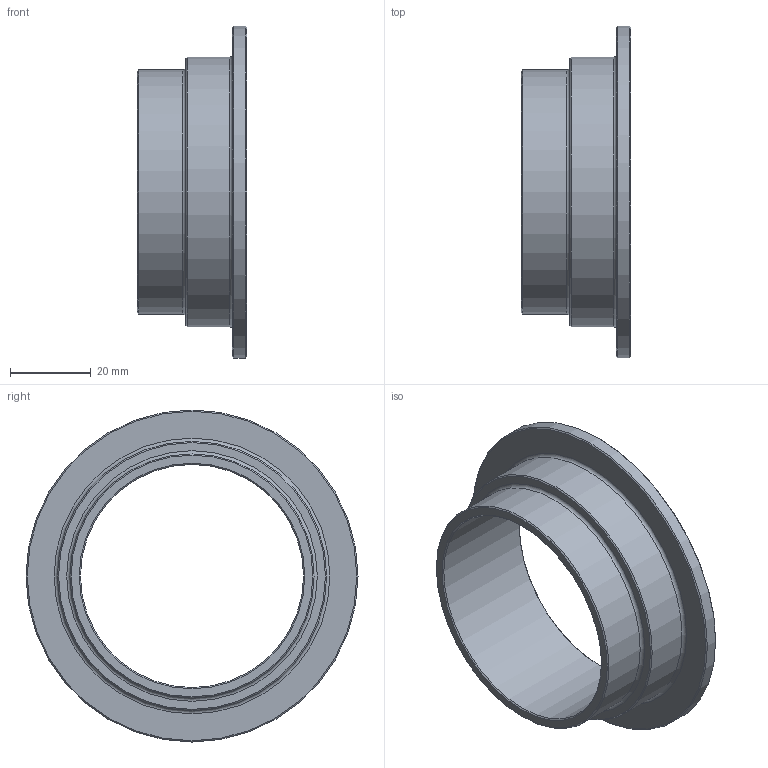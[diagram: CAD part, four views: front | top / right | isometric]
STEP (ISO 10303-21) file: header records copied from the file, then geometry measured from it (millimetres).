
FILE_DESCRIPTION(/* description */ (''),/* implementation_level */ '2;1');
FILE_NAME(/* name */ 'C:\Users\cad\Desktop\Zeichnungen neu von Ralph\3D_Kupplung_R666-SE\3D_R666-SE-60.3-DN80_17113375.stp',/* time_stamp */ '2021-06-18T09:12:27+02:00',/* author */ ('cad'),/* organization */ (''),/* preprocessor_version */ 'ST-DEVELOPER v18.1',/* originating_system */ 'Autodesk Inventor 2022',/* authorisation */ '');
FILE_SCHEMA (('AUTOMOTIVE_DESIGN { 1 0 10303 214 3 1 1 }'));
Length unit declared in the file: millimetre
Products named in the file (1): 3D_R666-SE-60.3-DN80_17113375
Bounding box: 27 x 82 x 82 mm (x, y, z)
Volume: 28312.5 mm3; surface area: 15686.4 mm2
Topology: 1 solids, 1 shells, 16 faces, 36 edges, 24 vertices
Faces by surface type: cone 6, cylinder 4, plane 4, torus 2
Full cylindrical faces by diameter (mm): 55.1 x1, 60.3 x1, 66.5 x1, 82 x1
Entity records: 511 total; most frequent: DIRECTION 96, CARTESIAN_POINT 77, ORIENTED_EDGE 72, AXIS2_PLACEMENT_3D 43, EDGE_CURVE 36, CIRCLE 26, VERTEX_POINT 24, EDGE_LOOP 20
